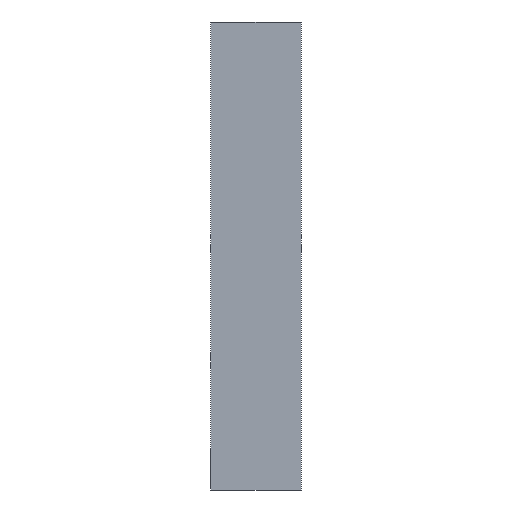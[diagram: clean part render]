
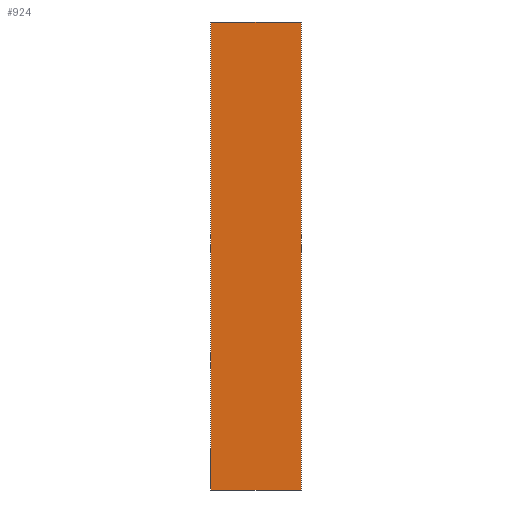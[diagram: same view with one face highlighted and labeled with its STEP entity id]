
A CAD part, left-side view. The second image highlights one B-rep face of the part: STEP entity #924.
In plain terms, the highlighted planar face has unit normal (-1, 0, 0).
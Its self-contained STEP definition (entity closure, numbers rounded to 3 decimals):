
#61 = CARTESIAN_POINT ( 'NONE',  ( -37.5, -14., 145. ) ) ;
#68 = PLANE ( 'NONE',  #957 ) ;
#70 = DIRECTION ( 'NONE',  ( 1., 0., 0. ) ) ;
#71 = DIRECTION ( 'NONE',  ( 0., 0., -1. ) ) ;
#171 = CARTESIAN_POINT ( 'NONE',  ( -37.5, -14., 0. ) ) ;
#182 = CARTESIAN_POINT ( 'NONE',  ( -37.5, -14., 145. ) ) ;
#189 = CARTESIAN_POINT ( 'NONE',  ( -37.5, 14., 145. ) ) ;
#227 = EDGE_CURVE ( 'NONE', #1071, #1060, #350, .T. ) ;
#228 = EDGE_CURVE ( 'NONE', #833, #1060, #356, .T. ) ;
#229 = EDGE_CURVE ( 'NONE', #1078, #1071, #353, .T. ) ;
#230 = EDGE_CURVE ( 'NONE', #1078, #833, #360, .T. ) ;
#340 = EDGE_LOOP ( 'NONE', ( #1288, #1265, #1268, #1289 ) ) ;
#350 = LINE ( 'NONE', #1374, #357 ) ;
#353 = LINE ( 'NONE', #1373, #361 ) ;
#356 = LINE ( 'NONE', #1370, #359 ) ;
#357 = VECTOR ( 'NONE', #1371, 1000. ) ;
#359 = VECTOR ( 'NONE', #1372, 1000. ) ;
#360 = LINE ( 'NONE', #1362, #363 ) ;
#361 = VECTOR ( 'NONE', #1364, 1000. ) ;
#363 = VECTOR ( 'NONE', #1354, 1000. ) ;
#555 = FACE_OUTER_BOUND ( 'NONE', #340, .T. ) ;
#737 = CARTESIAN_POINT ( 'NONE',  ( -37.5, 14., 0. ) ) ;
#833 = VERTEX_POINT ( 'NONE', #737 ) ;
#924 = ADVANCED_FACE ( 'NONE', ( #555 ), #68, .F. ) ;
#957 = AXIS2_PLACEMENT_3D ( 'NONE', #61, #70, #71 ) ;
#1060 = VERTEX_POINT ( 'NONE', #171 ) ;
#1071 = VERTEX_POINT ( 'NONE', #182 ) ;
#1078 = VERTEX_POINT ( 'NONE', #189 ) ;
#1265 = ORIENTED_EDGE ( 'NONE', *, *, #227, .F. ) ;
#1268 = ORIENTED_EDGE ( 'NONE', *, *, #229, .F. ) ;
#1288 = ORIENTED_EDGE ( 'NONE', *, *, #228, .T. ) ;
#1289 = ORIENTED_EDGE ( 'NONE', *, *, #230, .T. ) ;
#1354 = DIRECTION ( 'NONE',  ( 0., 0., -1. ) ) ;
#1362 = CARTESIAN_POINT ( 'NONE',  ( -37.5, 14., 145. ) ) ;
#1364 = DIRECTION ( 'NONE',  ( 0., -1., 0. ) ) ;
#1370 = CARTESIAN_POINT ( 'NONE',  ( -37.5, -14., 0. ) ) ;
#1371 = DIRECTION ( 'NONE',  ( 0., 0., -1. ) ) ;
#1372 = DIRECTION ( 'NONE',  ( 0., -1., 0. ) ) ;
#1373 = CARTESIAN_POINT ( 'NONE',  ( -37.5, -14., 145. ) ) ;
#1374 = CARTESIAN_POINT ( 'NONE',  ( -37.5, -14., 145. ) ) ;
